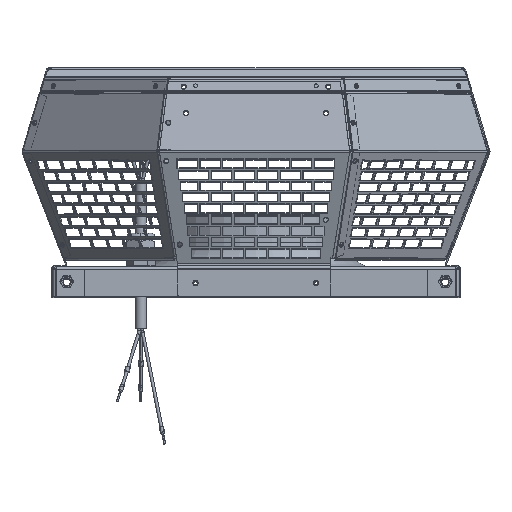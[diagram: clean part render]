
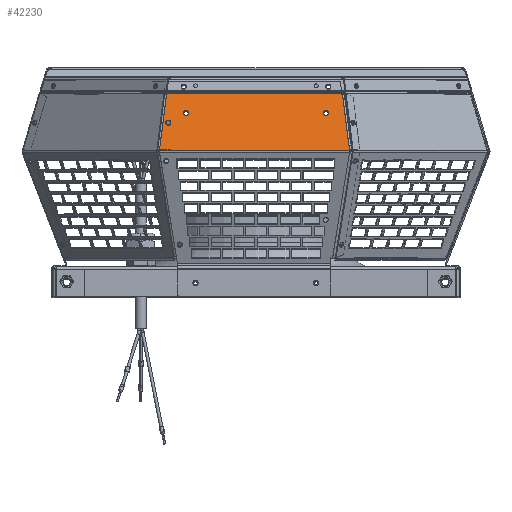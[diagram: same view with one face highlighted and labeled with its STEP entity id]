
A CAD part, top view. The second image highlights one B-rep face of the part: STEP entity #42230.
In plain terms, the highlighted planar face has unit normal (0, 0.288, 0.958).
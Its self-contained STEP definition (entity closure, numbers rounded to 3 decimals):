
#1039 = EDGE_CURVE ( 'NONE', #78859, #77782, #67967, .T. ) ;
#1042 = EDGE_CURVE ( 'NONE', #78841, #78225, #67973, .T. ) ;
#1049 = EDGE_CURVE ( 'NONE', #83237, #83291, #67985, .T. ) ;
#1050 = EDGE_CURVE ( 'NONE', #42212, #42239, #67988, .T. ) ;
#1051 = EDGE_CURVE ( 'NONE', #83259, #78859, #67989, .T. ) ;
#1114 = EDGE_CURVE ( 'NONE', #78225, #83106, #68099, .T. ) ;
#1128 = EDGE_CURVE ( 'NONE', #83259, #83236, #68118, .T. ) ;
#1156 = EDGE_CURVE ( 'NONE', #70052, #83189, #68173, .T. ) ;
#1322 = EDGE_CURVE ( 'NONE', #42239, #42212, #68474, .T. ) ;
#2679 = DIRECTION ( 'NONE',  ( 0., 0.958, -0.288 ) ) ;
#2681 = DIRECTION ( 'NONE',  ( 0., -0.288, -0.958 ) ) ;
#2684 = CARTESIAN_POINT ( 'NONE',  ( -58.06, 128.655, 184.663 ) ) ;
#6407 = LINE ( 'NONE', #19039, #6411 ) ;
#6411 = VECTOR ( 'NONE', #19046, 1000. ) ;
#8264 = PLANE ( 'NONE',  #53626 ) ;
#8279 = CARTESIAN_POINT ( 'NONE',  ( 79.94, 97.017, 194.185 ) ) ;
#8284 = DIRECTION ( 'NONE',  ( 0., -0.288, -0.958 ) ) ;
#8286 = DIRECTION ( 'NONE',  ( 0., 0.958, -0.288 ) ) ;
#8308 = CARTESIAN_POINT ( 'NONE',  ( -58.06, 130.666, 184.057 ) ) ;
#10871 = CARTESIAN_POINT ( 'NONE',  ( 77.54, 96.026, 194.483 ) ) ;
#10892 = CARTESIAN_POINT ( 'NONE',  ( 77.203, 96.704, 194.279 ) ) ;
#10895 = CARTESIAN_POINT ( 'NONE',  ( -72.783, 120.662, 187.068 ) ) ;
#10922 = CARTESIAN_POINT ( 'NONE',  ( 71.236, 144.572, 179.872 ) ) ;
#10949 = DIRECTION ( 'NONE',  ( 0., -0.288, -0.958 ) ) ;
#10954 = DIRECTION ( 'NONE',  ( 0.119, -0.951, 0.286 ) ) ;
#10957 = DIRECTION ( 'NONE',  ( 1., 0., 0. ) ) ;
#10958 = DIRECTION ( 'NONE',  ( 0., 0.958, -0.288 ) ) ;
#10959 = DIRECTION ( 'NONE',  ( 0., -0.288, -0.958 ) ) ;
#10968 = DIRECTION ( 'NONE',  ( -0.007, -0.958, 0.288 ) ) ;
#10971 = DIRECTION ( 'NONE',  ( 0., 0.958, -0.288 ) ) ;
#11201 = DIRECTION ( 'NONE',  ( -1., 0., 0. ) ) ;
#11750 = CARTESIAN_POINT ( 'NONE',  ( 79.94, 97.804, 193.948 ) ) ;
#11752 = CARTESIAN_POINT ( 'NONE',  ( -58.06, 128.655, 184.663 ) ) ;
#11985 = EDGE_LOOP ( 'NONE', ( #82069, #82067 ) ) ;
#11987 = EDGE_LOOP ( 'NONE', ( #82073, #82071 ) ) ;
#11991 = EDGE_LOOP ( 'NONE', ( #82091, #82089 ) ) ;
#11996 = EDGE_LOOP ( 'NONE', ( #82087, #82085, #82083, #82081, #82079, #82077, #82075 ) ) ;
#16748 = DIRECTION ( 'NONE',  ( 0., 0.288, 0.958 ) ) ;
#16750 = DIRECTION ( 'NONE',  ( 0., 0.958, -0.288 ) ) ;
#16784 = CARTESIAN_POINT ( 'NONE',  ( 79.94, 144.999, 179.744 ) ) ;
#16789 = DIRECTION ( 'NONE',  ( -1., 0., 0. ) ) ;
#16853 = CARTESIAN_POINT ( 'NONE',  ( 57.94, 128.655, 184.663 ) ) ;
#19039 = CARTESIAN_POINT ( 'NONE',  ( 77.603, 97.537, 194.028 ) ) ;
#19046 = DIRECTION ( 'NONE',  ( -0.119, 0.951, -0.286 ) ) ;
#27799 = FACE_BOUND ( 'NONE', #11987, .T. ) ;
#27802 = FACE_OUTER_BOUND ( 'NONE', #11996, .T. ) ;
#27806 = FACE_BOUND ( 'NONE', #11985, .T. ) ;
#27807 = FACE_BOUND ( 'NONE', #11991, .T. ) ;
#31289 = EDGE_CURVE ( 'NONE', #83291, #83237, #63684, .T. ) ;
#42212 = VERTEX_POINT ( 'NONE', #56663 ) ;
#42230 = ADVANCED_FACE ( 'NONE', ( #27807, #27802, #27799, #27806 ), #8264, .F. ) ;
#42239 = VERTEX_POINT ( 'NONE', #8308 ) ;
#44088 = EDGE_CURVE ( 'NONE', #78841, #77782, #6407, .T. ) ;
#50672 = LINE ( 'NONE', #53419, #50675 ) ;
#50675 = VECTOR ( 'NONE', #53420, 1000. ) ;
#53188 = CARTESIAN_POINT ( 'NONE',  ( 57.94, 128.655, 184.663 ) ) ;
#53189 = DIRECTION ( 'NONE',  ( 0., 0.288, 0.958 ) ) ;
#53190 = DIRECTION ( 'NONE',  ( 0., 0.958, -0.288 ) ) ;
#53419 = CARTESIAN_POINT ( 'NONE',  ( -74.19, 144.896, 179.775 ) ) ;
#53420 = DIRECTION ( 'NONE',  ( 0.119, 0.951, -0.286 ) ) ;
#53626 = AXIS2_PLACEMENT_3D ( 'NONE', #8279, #8284, #8286 ) ;
#56663 = CARTESIAN_POINT ( 'NONE',  ( -58.06, 126.644, 185.268 ) ) ;
#58528 = CARTESIAN_POINT ( 'NONE',  ( -80.06, 97.804, 193.948 ) ) ;
#58807 = CARTESIAN_POINT ( 'NONE',  ( 57.94, 130.666, 184.057 ) ) ;
#58965 = CARTESIAN_POINT ( 'NONE',  ( -74.177, 144.999, 179.744 ) ) ;
#58969 = CARTESIAN_POINT ( 'NONE',  ( -72.783, 122.673, 186.463 ) ) ;
#59039 = CARTESIAN_POINT ( 'NONE',  ( 71.183, 144.999, 179.744 ) ) ;
#59150 = CARTESIAN_POINT ( 'NONE',  ( -72.783, 118.651, 187.673 ) ) ;
#60393 = CARTESIAN_POINT ( 'NONE',  ( -72.783, 120.662, 187.068 ) ) ;
#60395 = DIRECTION ( 'NONE',  ( 0., -0.288, -0.958 ) ) ;
#60397 = DIRECTION ( 'NONE',  ( 0., 0.958, -0.288 ) ) ;
#62615 = CIRCLE ( 'NONE', #88745, 2.1 ) ;
#63684 = CIRCLE ( 'NONE', #66416, 2.1 ) ;
#66416 = AXIS2_PLACEMENT_3D ( 'NONE', #60393, #60395, #60397 ) ;
#67967 = LINE ( 'NONE', #10922, #67972 ) ;
#67972 = VECTOR ( 'NONE', #10957, 1000. ) ;
#67973 = LINE ( 'NONE', #10871, #67978 ) ;
#67978 = VECTOR ( 'NONE', #10968, 1000. ) ;
#67985 = CIRCLE ( 'NONE', #76555, 2.1 ) ;
#67988 = CIRCLE ( 'NONE', #76551, 2.1 ) ;
#67989 = LINE ( 'NONE', #10892, #67992 ) ;
#67992 = VECTOR ( 'NONE', #10954, 1000. ) ;
#68099 = LINE ( 'NONE', #11750, #68101 ) ;
#68101 = VECTOR ( 'NONE', #11201, 1000. ) ;
#68118 = LINE ( 'NONE', #16784, #68126 ) ;
#68126 = VECTOR ( 'NONE', #16789, 1000. ) ;
#68173 = CIRCLE ( 'NONE', #76522, 2.1 ) ;
#68474 = CIRCLE ( 'NONE', #76462, 2.1 ) ;
#70052 = VERTEX_POINT ( 'NONE', #88918 ) ;
#71965 = CARTESIAN_POINT ( 'NONE',  ( 77.555, 97.923, 193.912 ) ) ;
#71998 = CARTESIAN_POINT ( 'NONE',  ( 71.236, 144.572, 179.872 ) ) ;
#72093 = CARTESIAN_POINT ( 'NONE',  ( 71.739, 144.572, 179.872 ) ) ;
#73180 = CARTESIAN_POINT ( 'NONE',  ( 77.554, 97.804, 193.948 ) ) ;
#76462 = AXIS2_PLACEMENT_3D ( 'NONE', #2684, #2681, #2679 ) ;
#76522 = AXIS2_PLACEMENT_3D ( 'NONE', #16853, #16748, #16750 ) ;
#76551 = AXIS2_PLACEMENT_3D ( 'NONE', #11752, #10959, #10958 ) ;
#76555 = AXIS2_PLACEMENT_3D ( 'NONE', #10895, #10949, #10971 ) ;
#77782 = VERTEX_POINT ( 'NONE', #72093 ) ;
#78225 = VERTEX_POINT ( 'NONE', #73180 ) ;
#78841 = VERTEX_POINT ( 'NONE', #71965 ) ;
#78859 = VERTEX_POINT ( 'NONE', #71998 ) ;
#82067 = ORIENTED_EDGE ( 'NONE', *, *, #1156, .F. ) ;
#82069 = ORIENTED_EDGE ( 'NONE', *, *, #84357, .F. ) ;
#82071 = ORIENTED_EDGE ( 'NONE', *, *, #1050, .T. ) ;
#82073 = ORIENTED_EDGE ( 'NONE', *, *, #1322, .T. ) ;
#82075 = ORIENTED_EDGE ( 'NONE', *, *, #1042, .F. ) ;
#82077 = ORIENTED_EDGE ( 'NONE', *, *, #1114, .F. ) ;
#82079 = ORIENTED_EDGE ( 'NONE', *, *, #84461, .F. ) ;
#82081 = ORIENTED_EDGE ( 'NONE', *, *, #1128, .T. ) ;
#82083 = ORIENTED_EDGE ( 'NONE', *, *, #1051, .F. ) ;
#82085 = ORIENTED_EDGE ( 'NONE', *, *, #1039, .F. ) ;
#82087 = ORIENTED_EDGE ( 'NONE', *, *, #44088, .T. ) ;
#82089 = ORIENTED_EDGE ( 'NONE', *, *, #31289, .T. ) ;
#82091 = ORIENTED_EDGE ( 'NONE', *, *, #1049, .T. ) ;
#83106 = VERTEX_POINT ( 'NONE', #58528 ) ;
#83189 = VERTEX_POINT ( 'NONE', #58807 ) ;
#83236 = VERTEX_POINT ( 'NONE', #58965 ) ;
#83237 = VERTEX_POINT ( 'NONE', #58969 ) ;
#83259 = VERTEX_POINT ( 'NONE', #59039 ) ;
#83291 = VERTEX_POINT ( 'NONE', #59150 ) ;
#84357 = EDGE_CURVE ( 'NONE', #83189, #70052, #62615, .T. ) ;
#84461 = EDGE_CURVE ( 'NONE', #83106, #83236, #50672, .T. ) ;
#88745 = AXIS2_PLACEMENT_3D ( 'NONE', #53188, #53189, #53190 ) ;
#88918 = CARTESIAN_POINT ( 'NONE',  ( 57.94, 126.644, 185.268 ) ) ;
